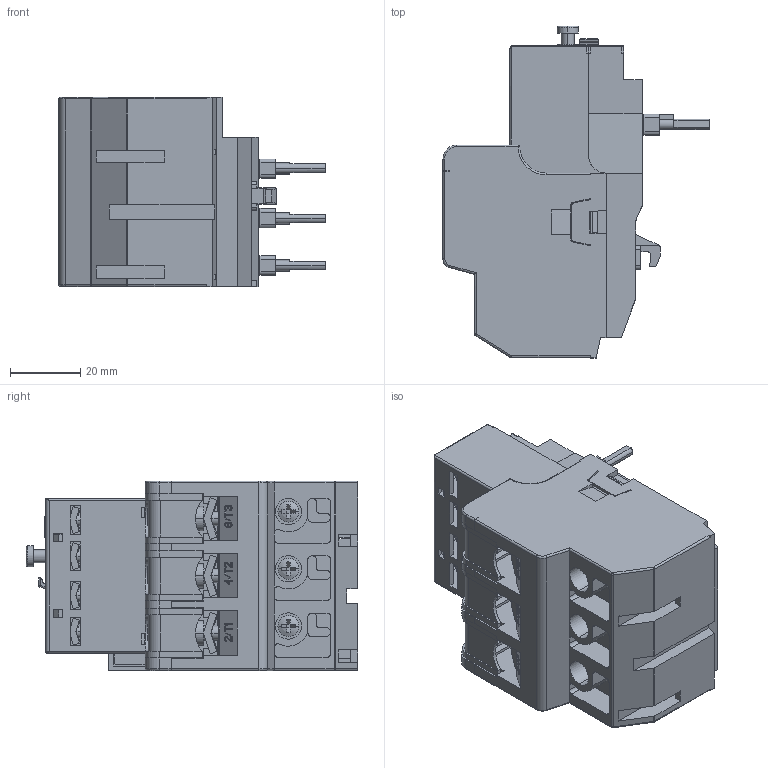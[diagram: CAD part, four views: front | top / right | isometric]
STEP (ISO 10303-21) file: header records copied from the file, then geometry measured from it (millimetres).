
FILE_DESCRIPTION((''),'2;1');
FILE_NAME('2TZD_331_1005_SW0001','2022-05-09T',('xujianyu'),(''),'PRO/ENGINEER BY PARAMETRIC TECHNOLOGY CORPORATION, 2017170','PRO/ENGINEER BY PARAMETRIC TECHNOLOGY CORPORATION, 2017170','');
FILE_SCHEMA(('CONFIG_CONTROL_DESIGN'));
Products named in the file (1): 2TZD_331_1005_SW0001
Bounding box: 75.85 x 94.55 x 54.1 mm (x, y, z)
Volume: 154699.1 mm3; surface area: 58081.4 mm2
Topology: 1 solids, 1 shells, 4072 faces, 11557 edges, 7566 vertices
Faces by surface type: plane 3230, cylinder 522, extrusion 164, cone 65, torus 49, sphere 37, bspline 5
Entity records: 169695 total; most frequent: CARTESIAN_POINT 28113, ORIENTED_EDGE 23114, DIRECTION 20124, EDGE_CURVE 11557, VECTOR 9804, LINE 9640, VERTEX_POINT 7566, FILL_AREA_STYLE_COLOUR 5537
